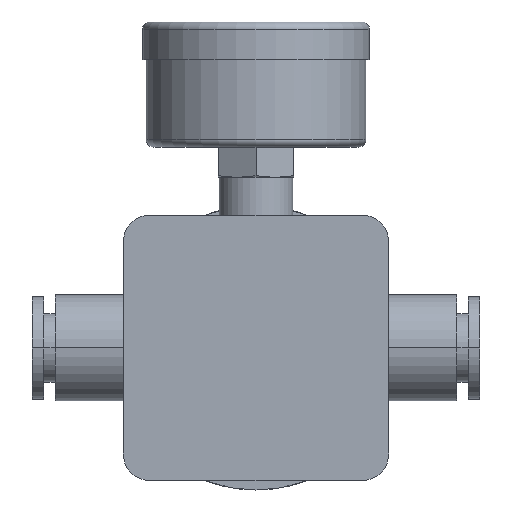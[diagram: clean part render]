
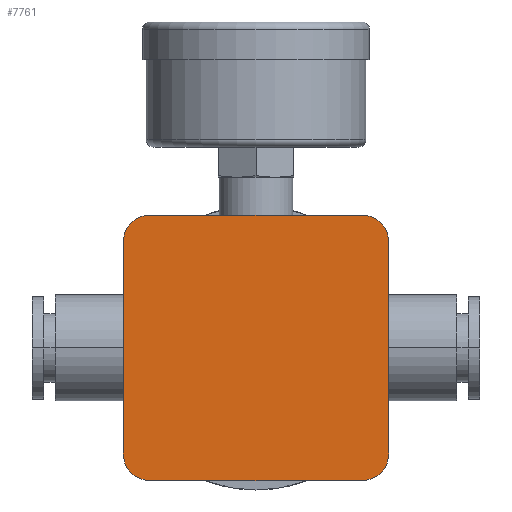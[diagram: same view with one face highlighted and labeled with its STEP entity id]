
A CAD part, front view. The second image highlights one B-rep face of the part: STEP entity #7761.
In plain terms, the highlighted planar face has unit normal (0, -1, 0).
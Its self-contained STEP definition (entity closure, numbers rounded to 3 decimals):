
#462 = LINE ( 'NONE', #1667, #1227 ) ;
#574 = CARTESIAN_POINT ( 'NONE',  ( 17.5, -21., 14. ) ) ;
#628 = EDGE_CURVE ( 'NONE', #7436, #7685, #5293, .T. ) ;
#657 = DIRECTION ( 'NONE',  ( 0., 1., 0. ) ) ;
#825 = FACE_OUTER_BOUND ( 'NONE', #3129, .T. ) ;
#989 = DIRECTION ( 'NONE',  ( 0., 0., -1. ) ) ;
#1198 = VERTEX_POINT ( 'NONE', #2506 ) ;
#1227 = VECTOR ( 'NONE', #5697, 1000. ) ;
#1369 = ORIENTED_EDGE ( 'NONE', *, *, #628, .F. ) ;
#1431 = EDGE_CURVE ( 'NONE', #5401, #1198, #8171, .T. ) ;
#1667 = CARTESIAN_POINT ( 'NONE',  ( -17.5, -21., -14. ) ) ;
#1755 = EDGE_CURVE ( 'NONE', #7479, #6260, #5536, .T. ) ;
#1769 = PLANE ( 'NONE',  #7081 ) ;
#1936 = DIRECTION ( 'NONE',  ( 1., 0., 0. ) ) ;
#2104 = ORIENTED_EDGE ( 'NONE', *, *, #6643, .F. ) ;
#2506 = CARTESIAN_POINT ( 'NONE',  ( 14., -21., 17.5 ) ) ;
#2605 = CARTESIAN_POINT ( 'NONE',  ( -14., -21., 17.5 ) ) ;
#2731 = ORIENTED_EDGE ( 'NONE', *, *, #4407, .F. ) ;
#2821 = AXIS2_PLACEMENT_3D ( 'NONE', #5042, #8231, #6975 ) ;
#2844 = AXIS2_PLACEMENT_3D ( 'NONE', #5049, #8365, #5693 ) ;
#2965 = CARTESIAN_POINT ( 'NONE',  ( 14., -21., -17.5 ) ) ;
#2985 = EDGE_CURVE ( 'NONE', #3314, #5401, #6787, .T. ) ;
#3016 = CARTESIAN_POINT ( 'NONE',  ( -14., -21., -14. ) ) ;
#3129 = EDGE_LOOP ( 'NONE', ( #1369, #2731, #3720, #5891, #8151, #4391, #7599, #2104 ) ) ;
#3266 = CARTESIAN_POINT ( 'NONE',  ( 17.5, -21., -14. ) ) ;
#3314 = VERTEX_POINT ( 'NONE', #5969 ) ;
#3452 = DIRECTION ( 'NONE',  ( -1., 0., 0. ) ) ;
#3623 = CARTESIAN_POINT ( 'NONE',  ( -14., -21., -17.5 ) ) ;
#3679 = AXIS2_PLACEMENT_3D ( 'NONE', #3724, #5692, #6461 ) ;
#3720 = ORIENTED_EDGE ( 'NONE', *, *, #5766, .F. ) ;
#3724 = CARTESIAN_POINT ( 'NONE',  ( 14., -21., -14. ) ) ;
#3740 = CARTESIAN_POINT ( 'NONE',  ( 17.5, -21., 14. ) ) ;
#4092 = VECTOR ( 'NONE', #3452, 1000. ) ;
#4391 = ORIENTED_EDGE ( 'NONE', *, *, #1431, .F. ) ;
#4407 = EDGE_CURVE ( 'NONE', #6203, #7436, #4682, .T. ) ;
#4556 = VECTOR ( 'NONE', #5602, 1000. ) ;
#4682 = LINE ( 'NONE', #5470, #4092 ) ;
#4939 = DIRECTION ( 'NONE',  ( 0., 1., 0. ) ) ;
#5042 = CARTESIAN_POINT ( 'NONE',  ( -14., -21., 14. ) ) ;
#5049 = CARTESIAN_POINT ( 'NONE',  ( 14., -21., 14. ) ) ;
#5174 = CIRCLE ( 'NONE', #2844, 3.5 ) ;
#5205 = CARTESIAN_POINT ( 'NONE',  ( -14., -21., -14. ) ) ;
#5293 = CIRCLE ( 'NONE', #7080, 3.5 ) ;
#5401 = VERTEX_POINT ( 'NONE', #2605 ) ;
#5470 = CARTESIAN_POINT ( 'NONE',  ( 14., -21., -17.5 ) ) ;
#5536 = LINE ( 'NONE', #3740, #7713 ) ;
#5602 = DIRECTION ( 'NONE',  ( 1., 0., 0. ) ) ;
#5692 = DIRECTION ( 'NONE',  ( 0., 1., 0. ) ) ;
#5693 = DIRECTION ( 'NONE',  ( 1., 0., 0. ) ) ;
#5697 = DIRECTION ( 'NONE',  ( 0., 0., 1. ) ) ;
#5725 = CARTESIAN_POINT ( 'NONE',  ( -14., -21., 17.5 ) ) ;
#5766 = EDGE_CURVE ( 'NONE', #6260, #6203, #6277, .T. ) ;
#5891 = ORIENTED_EDGE ( 'NONE', *, *, #1755, .F. ) ;
#5969 = CARTESIAN_POINT ( 'NONE',  ( -17.5, -21., 14. ) ) ;
#6203 = VERTEX_POINT ( 'NONE', #2965 ) ;
#6260 = VERTEX_POINT ( 'NONE', #3266 ) ;
#6277 = CIRCLE ( 'NONE', #3679, 3.5 ) ;
#6461 = DIRECTION ( 'NONE',  ( 1., 0., 0. ) ) ;
#6643 = EDGE_CURVE ( 'NONE', #7685, #3314, #462, .T. ) ;
#6787 = CIRCLE ( 'NONE', #2821, 3.5 ) ;
#6864 = DIRECTION ( 'NONE',  ( 1., 0., 0. ) ) ;
#6975 = DIRECTION ( 'NONE',  ( 1., 0., 0. ) ) ;
#7080 = AXIS2_PLACEMENT_3D ( 'NONE', #5205, #657, #1936 ) ;
#7081 = AXIS2_PLACEMENT_3D ( 'NONE', #3016, #4939, #6864 ) ;
#7390 = CARTESIAN_POINT ( 'NONE',  ( -17.5, -21., -14. ) ) ;
#7436 = VERTEX_POINT ( 'NONE', #3623 ) ;
#7479 = VERTEX_POINT ( 'NONE', #574 ) ;
#7599 = ORIENTED_EDGE ( 'NONE', *, *, #2985, .F. ) ;
#7685 = VERTEX_POINT ( 'NONE', #7390 ) ;
#7713 = VECTOR ( 'NONE', #989, 1000. ) ;
#7761 = ADVANCED_FACE ( 'NONE', ( #825 ), #1769, .F. ) ;
#8151 = ORIENTED_EDGE ( 'NONE', *, *, #8198, .F. ) ;
#8171 = LINE ( 'NONE', #5725, #4556 ) ;
#8198 = EDGE_CURVE ( 'NONE', #1198, #7479, #5174, .T. ) ;
#8231 = DIRECTION ( 'NONE',  ( 0., 1., 0. ) ) ;
#8365 = DIRECTION ( 'NONE',  ( 0., 1., 0. ) ) ;
